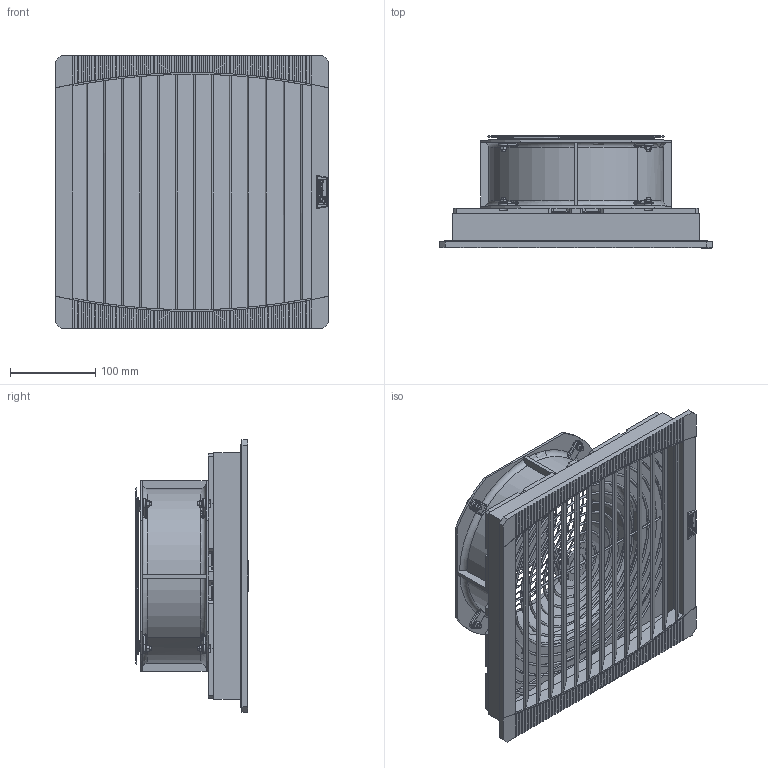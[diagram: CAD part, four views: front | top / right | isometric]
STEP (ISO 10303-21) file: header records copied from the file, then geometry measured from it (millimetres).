
FILE_DESCRIPTION (( 'STEP AP203' ), '1' );
FILE_NAME ('PF65000SL_STEP.STEP', '2010-07-02T11:32:33', ( ' ' ), ( ' ' ), 'SwSTEP 2.0', 'SolidWorks 2010', '' );
FILE_SCHEMA (( 'CONFIG_CONTROL_DESIGN' ));
Length unit declared in the file: millimetre
Products named in the file (11): Flachkopfschraube mit Kreutzschlitz - DIN EN ISO 7045_ISO 7045 - M4 x 16 - Z --- 16N; PF65000SL_STEP; housing PF6x; cover PF6x; FanSupport_PF65000SL; Serrated Lock Washer 1_Pfannenberg GmbH_DIN 6798-A4.3; Axial Lüfter Serie W2E200_010000003 W2E200 ; 011000002 EBM 78128-2-4039_005047030 - LZ27; 30162-013; Hex Nut Style 1 GradeAB_Pfannenberg GmbH_Hexagon Nut ISO 4032 - M4 - D - N; Plain Washer Large_Pfannenberg GmbH_Washer DIN 9021 - 5.3
Assembly tree (34 placements, depth 2):
  PF65000SL_STEP
    FanSupport_PF65000SL
    Flachkopfschraube mit Kreutzschlitz - DIN EN ISO 7045_ISO 7045 - M4 x 16 - Z --- 16N  x8
    Plain Washer Large_Pfannenberg GmbH_Washer DIN 9021 - 5.3  x4
    Serrated Lock Washer 1_Pfannenberg GmbH_DIN 6798-A4.3  x8
    Hex Nut Style 1 GradeAB_Pfannenberg GmbH_Hexagon Nut ISO 4032 - M4 - D - N  x8
    011000002 EBM 78128-2-4039_005047030 - LZ27
    Axial Lüfter Serie W2E200_010000003 W2E200 
    cover PF6x
    30162-013
    housing PF6x
Bounding box: 320 x 133.06 x 320 mm (x, y, z)
Volume: 1197030.4 mm3; surface area: 818347.3 mm2
Topology: 44 solids, 44 shells, 2825 faces, 7845 edges, 4915 vertices
Faces by surface type: plane 1263, cylinder 668, bspline 498, torus 203, cone 193
Entity records: 85092 total; most frequent: CARTESIAN_POINT 33341, ORIENTED_EDGE 11230, DIRECTION 9295, EDGE_CURVE 5615, VERTEX_POINT 3624, AXIS2_PLACEMENT_3D 3261, VECTOR 2773, LINE 2773
